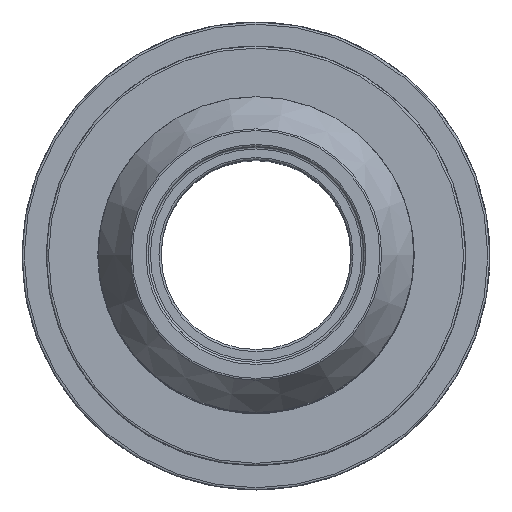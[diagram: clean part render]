
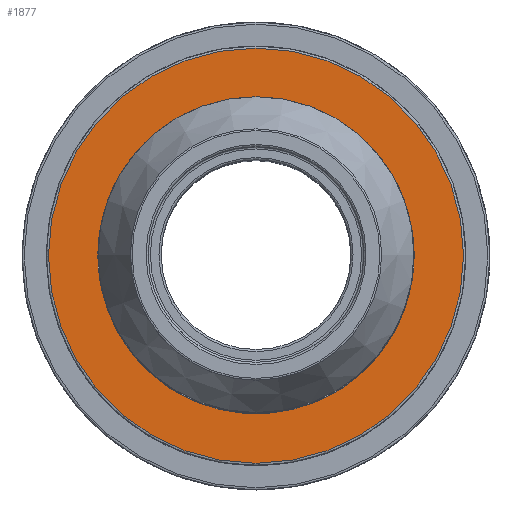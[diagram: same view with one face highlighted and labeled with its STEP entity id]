
A CAD part, top view. The second image highlights one B-rep face of the part: STEP entity #1877.
In plain terms, the highlighted planar face has unit normal (0, 0, 1).
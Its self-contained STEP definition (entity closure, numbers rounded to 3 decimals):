
#83=FACE_BOUND('',#332,.T.);
#109=PLANE('',#2059);
#215=FACE_OUTER_BOUND('',#331,.T.);
#331=EDGE_LOOP('',(#1659,#1660));
#332=EDGE_LOOP('',(#1661));
#437=CIRCLE('',#2052,8.491);
#440=CIRCLE('',#2055,8.491);
#443=CIRCLE('',#2060,6.175);
#847=VERTEX_POINT('',#6564);
#848=VERTEX_POINT('',#6565);
#853=VERTEX_POINT('',#6582);
#1126=EDGE_CURVE('',#847,#848,#437,.T.);
#1130=EDGE_CURVE('',#848,#847,#440,.T.);
#1134=EDGE_CURVE('',#853,#853,#443,.T.);
#1659=ORIENTED_EDGE('',*,*,#1126,.F.);
#1660=ORIENTED_EDGE('',*,*,#1130,.F.);
#1661=ORIENTED_EDGE('',*,*,#1134,.F.);
#1877=ADVANCED_FACE('',(#215,#83),#109,.T.);
#2052=AXIS2_PLACEMENT_3D('',#6566,#2424,#2425);
#2055=AXIS2_PLACEMENT_3D('',#6574,#2430,#2431);
#2059=AXIS2_PLACEMENT_3D('',#6581,#2439,#2440);
#2060=AXIS2_PLACEMENT_3D('',#6583,#2441,#2442);
#2424=DIRECTION('center_axis',(0.,0.,-1.));
#2425=DIRECTION('ref_axis',(-1.,0.,0.));
#2430=DIRECTION('center_axis',(0.,0.,-1.));
#2431=DIRECTION('ref_axis',(-1.,0.,0.));
#2439=DIRECTION('center_axis',(0.,0.,1.));
#2440=DIRECTION('ref_axis',(1.,0.,0.));
#2441=DIRECTION('center_axis',(0.,0.,1.));
#2442=DIRECTION('ref_axis',(1.,0.,0.));
#6564=CARTESIAN_POINT('',(8.491,0.,13.95));
#6565=CARTESIAN_POINT('',(-8.491,0.,13.95));
#6566=CARTESIAN_POINT('Origin',(0.,0.,13.95));
#6574=CARTESIAN_POINT('Origin',(0.,0.,13.95));
#6581=CARTESIAN_POINT('Origin',(6.175,0.,13.95));
#6582=CARTESIAN_POINT('',(-6.175,0.,13.95));
#6583=CARTESIAN_POINT('Origin',(0.,0.,13.95));
